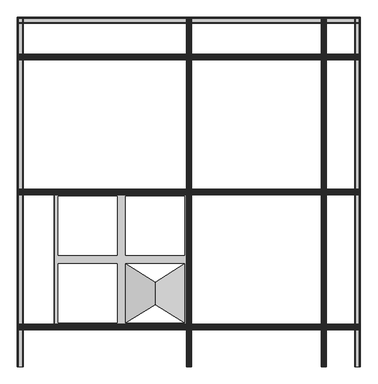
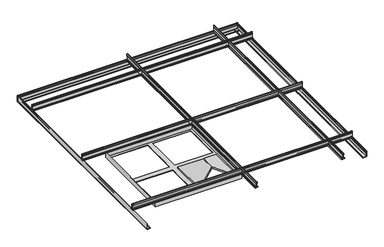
"""IFC4 building model written with IfcOpenShell, lengths in millimetres: proxy geometry, Maxxit_Piramid-Ceiling_rev-01 : Maxxit_Piramid-Ceiling_Quad."""

from ifc_helpers import new_model, si_unit, point, frame, frame_2d, origin, place, context, project, spatial, polyline, circle_curve, trimmed, segment, composite_curve, outline, extrude, faceted_brep, source, transform, mapped, element, save


def generic_models_585501e3(model_context):
    return source(origin(), model_context, "Body", "SolidModel", [
        faceted_brep([(754.85625, 462.6473555, -1.5875), (754.85625, 195.9473555, -1.5875), (754.85625, 195.9473555, -11.1125), (754.85625, 462.6473555, -11.1125), (488.15625, 462.6473555, -11.1125), (488.15625, 195.9473555, -11.1125), (488.15625, 195.9473555, -1.5875), (488.15625, 462.6473555, -1.5875), (623.0937779, 380.097373, 62.70625), (623.0937779, 278.497338, 62.70625), (623.0937779, 278.497338, 53.18125), (619.9187221, 278.497338, 53.18125), (619.9187221, 278.497338, 62.70625), (619.9187221, 380.097373, 62.70625), (619.9187221, 380.097373, 53.18125), (623.0937779, 380.097373, 53.18125)], [[[0, 1, 2, 3]], [[4, 5, 6, 7]], [[1, 0, 8, 9]], [[9, 10, 2, 1]], [[11, 12, 6, 5]], [[13, 14, 4, 7]], [[15, 8, 0, 3]], [[10, 9, 12, 11]], [[8, 15, 14, 13]], [[3, 2, 10, 15]], [[15, 10, 11, 14]], [[5, 4, 14, 11]], [[7, 6, 12, 13]], [[9, 8, 13, 12]]]),
        faceted_brep([(165.1, 177.8, 25.4), (773.1125, 177.8, 25.4), (773.1125, 785.8125, 25.4), (165.1, 785.8125, 25.4), (771.525, 179.3875, 25.4), (166.6875, 179.3875, 25.4), (166.6875, 784.225, 25.4), (771.525, 784.225, 25.4), (165.1, 177.8, -12.7), (165.1, 785.8125, -12.7), (773.1125, 785.8125, -12.7), (773.1125, 177.8, -12.7), (754.85625, 195.9473555, -12.7), (754.85625, 462.6473555, -12.7), (488.15625, 462.6473555, -12.7), (488.15625, 195.9473555, -12.7), (183.35625, 195.9473555, -12.7), (450.05625, 195.9473555, -12.7), (450.05625, 278.497338, -12.7), (450.05625, 380.097373, -12.7), (450.05625, 462.6473555, -12.7), (183.35625, 462.6473555, -12.7), (183.35625, 380.0973555, -12.7), (183.35625, 278.4973555, -12.7), (754.85625, 767.6651445, -12.7), (488.15625, 767.6651445, -12.7), (488.15625, 685.115162, -12.7), (488.15625, 583.515127, -12.7), (488.15625, 500.9651445, -12.7), (754.85625, 500.9651445, -12.7), (754.85625, 583.5151445, -12.7), (754.85625, 685.1151445, -12.7), (183.35625, 500.9651445, -12.7), (450.05625, 500.9651445, -12.7), (450.05625, 583.515127, -12.7), (450.05625, 685.115162, -12.7), (450.05625, 767.6651445, -12.7), (183.35625, 767.6651445, -12.7), (183.35625, 685.1151445, -12.7), (183.35625, 583.5151445, -12.7), (166.6875, 179.3875, -11.1125), (771.525, 179.3875, -11.1125), (771.525, 784.225, -11.1125), (166.6875, 784.225, -11.1125), (754.85625, 195.9473555, -11.1125), (488.15625, 195.9473555, -11.1125), (488.15625, 462.6473555, -11.1125), (754.85625, 462.6473555, -11.1125), (183.35625, 462.6473555, -11.1125), (450.05625, 462.6473555, -11.1125), (450.05625, 380.097373, -11.1125), (450.05625, 278.497338, -11.1125), (450.05625, 195.9473555, -11.1125), (183.35625, 195.9473555, -11.1125), (183.35625, 278.4973555, -11.1125), (183.35625, 380.0973555, -11.1125), (754.85625, 500.9651445, -11.1125), (488.15625, 500.9651445, -11.1125), (488.15625, 583.515127, -11.1125), (488.15625, 685.115162, -11.1125), (488.15625, 767.6651445, -11.1125), (754.85625, 767.6651445, -11.1125), (754.85625, 685.1151445, -11.1125), (754.85625, 583.5151445, -11.1125), (183.35625, 767.6651445, -11.1125), (450.05625, 767.6651445, -11.1125), (450.05625, 685.115162, -11.1125), (450.05625, 583.515127, -11.1125), (450.05625, 500.9651445, -11.1125), (183.35625, 500.9651445, -11.1125), (183.35625, 583.5151445, -11.1125), (183.35625, 685.1151445, -11.1125)], [[[0, 1, 2, 3], [4, 5, 6, 7]], [[8, 9, 10, 11], [12, 13, 14, 15], [16, 17, 18, 19, 20, 21, 22, 23], [24, 25, 26, 27, 28, 29, 30, 31], [32, 33, 34, 35, 36, 37, 38, 39]], [[1, 0, 8, 11]], [[2, 1, 11, 10]], [[3, 2, 10, 9]], [[0, 3, 9, 8]], [[40, 41, 42, 43], [44, 45, 46, 47], [48, 49, 50, 51, 52, 53, 54, 55], [56, 57, 58, 59, 60, 61, 62, 63], [64, 65, 66, 67, 68, 69, 70, 71]], [[41, 40, 5, 4]], [[42, 41, 4, 7]], [[43, 42, 7, 6]], [[40, 43, 6, 5]], [[12, 15, 45, 44]], [[15, 14, 46, 45]], [[14, 13, 47, 46]], [[13, 12, 44, 47]], [[53, 16, 23, 22, 21, 48, 55, 54]], [[21, 20, 49, 48]], [[49, 20, 19, 18, 17, 52, 51, 50]], [[17, 16, 53, 52]], [[61, 24, 31, 30, 29, 56, 63, 62]], [[29, 28, 57, 56]], [[57, 28, 27, 26, 25, 60, 59, 58]], [[25, 24, 61, 60]], [[37, 36, 65, 64]], [[65, 36, 35, 34, 33, 68, 67, 66]], [[33, 32, 69, 68]], [[37, 64, 71, 70, 69, 32, 39, 38]]]),
        extrude(outline(composite_curve([segment(polyline([(26.3453115, 1384.6521622), (26.0364605, 1393.0221882), (27.0486923, 1393.0221882), (27.0486923, 1385.2587813)]), True, "CONTINUOUS"), segment(trimmed(circle_curve(frame_2d((28.0053766, 1385.2587813)), 0.9566843), [point((27.0486923, 1385.2587813))], [point((28.0053766, 1384.302097))], True, "CARTESIAN"), True, "CONTINUOUS"), segment(polyline([(28.0053766, 1384.302097), (53.7729211, 1384.302097)]), True, "CONTINUOUS"), segment(trimmed(circle_curve(frame_2d((53.6130577, 1385.0289444)), 0.74422), [point((53.7729211, 1384.302097))], [point((54.356, 1384.9853536))], True, "CARTESIAN"), True, "CONTINUOUS"), segment(trimmed(circle_curve(frame_2d((58.371716, 1385.2444703)), 4.0240672), [point((54.356, 1384.9853536))], [point((54.4068054, 1385.9319295))], False, "CARTESIAN"), True, "CONTINUOUS"), segment(trimmed(circle_curve(frame_2d((55.7865501, 1385.574174)), 1.4253717), [point((54.4068054, 1385.9319295))], [point((55.7865501, 1386.9995457))], False, "CARTESIAN"), True, "CONTINUOUS"), segment(polyline([(55.7865501, 1386.9995457), (64.7585942, 1386.9995457)]), True, "CONTINUOUS"), segment(trimmed(circle_curve(frame_2d((64.8150812, 1384.9494608)), 2.0508629), [point((64.7585942, 1386.9995457))], [point((66.2652603, 1386.3996399))], False, "CARTESIAN"), True, "CONTINUOUS"), segment(polyline([(66.2652603, 1386.3996399), (68.1708325, 1384.4940677)]), True, "CONTINUOUS"), segment(trimmed(circle_curve(frame_2d((67.1830148, 1383.50625)), 1.3969852), [point((68.1708325, 1384.4940677))], [point((68.1708325, 1382.5184323))], False, "CARTESIAN"), True, "CONTINUOUS"), segment(polyline([(68.1708325, 1382.5184323), (66.2652603, 1380.6128601)]), True, "CONTINUOUS"), segment(trimmed(circle_curve(frame_2d((64.8150812, 1382.0630392)), 2.0508629), [point((66.2652603, 1380.6128601))], [point((64.7585942, 1380.0129543))], False, "CARTESIAN"), True, "CONTINUOUS"), segment(polyline([(64.7585942, 1380.0129543), (55.7865501, 1380.0129543)]), True, "CONTINUOUS"), segment(trimmed(circle_curve(frame_2d((55.7865501, 1381.438326)), 1.4253717), [point((55.7865501, 1380.0129543))], [point((54.4068054, 1381.0805705))], False, "CARTESIAN"), True, "CONTINUOUS"), segment(trimmed(circle_curve(frame_2d((58.371716, 1381.7680297)), 4.0240672), [point((54.4068054, 1381.0805705))], [point((54.356, 1382.0271464))], False, "CARTESIAN"), True, "CONTINUOUS"), segment(trimmed(circle_curve(frame_2d((53.6130577, 1381.9835556)), 0.74422), [point((54.356, 1382.0271464))], [point((53.7436541, 1382.7162274))], True, "CARTESIAN"), True, "CONTINUOUS"), segment(polyline([(53.7436541, 1382.7162274), (28.0053766, 1382.7162274)]), True, "CONTINUOUS"), segment(trimmed(circle_curve(frame_2d((28.0053766, 1381.7595431)), 0.9566843), [point((28.0053766, 1382.7162274))], [point((27.0486923, 1381.7595431))], True, "CARTESIAN"), True, "CONTINUOUS"), segment(polyline([(27.0486923, 1381.7595431), (27.0486923, 1373.1632271), (26.0290179, 1373.1632271), (26.3453115, 1382.3661622)]), True, "CONTINUOUS"), segment(trimmed(circle_curve(frame_2d((27.4883115, 1382.3661622)), 1.143), [point((26.3453115, 1382.3661622))], [point((27.4883115, 1383.5091622))], False, "CARTESIAN"), True, "CONTINUOUS"), segment(trimmed(circle_curve(frame_2d((27.4883115, 1384.6521622)), 1.143), [point((27.4883115, 1383.5091622))], [point((26.3453115, 1384.6521622))], False, "CARTESIAN"), True, "CONTINUOUS")], self_intersect=False), holes=[composite_curve([segment(trimmed(circle_curve(frame_2d((54.058724, 1382.4366423)), 1.0922), [point((54.2797221, 1383.50625))], [point((55.150924, 1382.4366423))], False, "CARTESIAN"), True, "CONTINUOUS"), segment(polyline([(55.150924, 1382.4366423), (55.150924, 1381.4462215)]), True, "CONTINUOUS"), segment(trimmed(circle_curve(frame_2d((55.7859245, 1381.4462215)), 0.6350005), [point((55.150924, 1381.4462215))], [point((55.7859245, 1380.811221))], True, "CARTESIAN"), True, "CONTINUOUS"), segment(polyline([(55.7859245, 1380.811221), (64.7585942, 1380.811221)]), True, "CONTINUOUS"), segment(trimmed(circle_curve(frame_2d((64.7240599, 1382.3140641)), 1.5032399), [point((64.7585942, 1380.811221))], [point((65.7039943, 1381.1741261))], True, "CARTESIAN"), True, "CONTINUOUS"), segment(polyline([(65.7039943, 1381.1741261), (67.6095665, 1383.0796983)]), True, "CONTINUOUS"), segment(trimmed(circle_curve(frame_2d((67.1830148, 1383.50625)), 0.6032352), [point((67.6095665, 1383.0796983))], [point((67.6095665, 1383.9328017))], True, "CARTESIAN"), True, "CONTINUOUS"), segment(polyline([(67.6095665, 1383.9328017), (65.7039943, 1385.8383739)]), True, "CONTINUOUS"), segment(trimmed(circle_curve(frame_2d((64.7240599, 1384.6984359)), 1.5032399), [point((65.7039943, 1385.8383739))], [point((64.7585942, 1386.201279))], True, "CARTESIAN"), True, "CONTINUOUS"), segment(polyline([(64.7585942, 1386.201279), (55.7859245, 1386.201279)]), True, "CONTINUOUS"), segment(trimmed(circle_curve(frame_2d((55.7859245, 1385.5662785)), 0.6350005), [point((55.7859245, 1386.201279))], [point((55.150924, 1385.5662785))], True, "CARTESIAN"), True, "CONTINUOUS"), segment(polyline([(55.150924, 1385.5662785), (55.150924, 1384.5758577)]), True, "CONTINUOUS"), segment(trimmed(circle_curve(frame_2d((54.058724, 1384.5758577)), 1.0922), [point((55.150924, 1384.5758577))], [point((54.2797221, 1383.50625))], False, "CARTESIAN"), True, "CONTINUOUS")], self_intersect=False)]), frame((0.0, -0.79375, 0.0), z_axis=(0.0, 1.0, 0.0), x_axis=(0.0, 0.0, 1.0)), (0.0, 0.0, 1.0), 1574.8),
        extrude(outline(composite_curve([segment(trimmed(circle_curve(frame_2d((26.8823557, 1393.9419885)), 1.4823557), [point((25.4, 1393.9419885))], [point((28.3175237, 1393.5709475))], False, "CARTESIAN"), True, "CONTINUOUS"), segment(polyline([(28.3175237, 1393.5709475), (27.887022, 1392.0447705), (27.123083, 1392.2602613), (27.550773, 1393.7764703)]), True, "CONTINUOUS"), segment(trimmed(circle_curve(frame_2d((26.8823557, 1393.9419885)), 0.6886057), [point((27.550773, 1393.7764703))], [point((26.19375, 1393.9419885))], True, "CARTESIAN"), True, "CONTINUOUS"), segment(polyline([(26.19375, 1393.9419885), (26.19375, 1373.0705115)]), True, "CONTINUOUS"), segment(trimmed(circle_curve(frame_2d((26.8823557, 1373.0705115)), 0.6886057), [point((26.19375, 1373.0705115))], [point((27.550773, 1373.2360297))], True, "CARTESIAN"), True, "CONTINUOUS"), segment(polyline([(27.550773, 1373.2360297), (27.123083, 1374.7522387), (27.887022, 1374.9677295), (28.3175237, 1373.4415525)]), True, "CONTINUOUS"), segment(trimmed(circle_curve(frame_2d((26.8823557, 1373.0705115)), 1.4823557), [point((28.3175237, 1373.4415525))], [point((25.4, 1373.0705115))], False, "CARTESIAN"), True, "CONTINUOUS"), segment(polyline([(25.4, 1373.0705115), (25.4, 1393.9419885)]), True, "CONTINUOUS")], self_intersect=False)), frame((0.0, -0.79375, 0.0), z_axis=(0.0, 1.0, 0.0), x_axis=(0.0, 0.0, 1.0)), (0.0, 0.0, 1.0), 1574.8),
        extrude(outline(composite_curve([segment(trimmed(circle_curve(frame_2d((1397.3521622, 27.4883115)), 1.143), [point((1397.3521622, 26.3453115))], [point((1396.2091622, 27.4883115))], False, "CARTESIAN"), True, "CONTINUOUS"), segment(trimmed(circle_curve(frame_2d((1395.0661622, 27.4883115)), 1.143), [point((1396.2091622, 27.4883115))], [point((1395.0661622, 26.3453115))], False, "CARTESIAN"), True, "CONTINUOUS"), segment(polyline([(1395.0661622, 26.3453115), (1385.8632271, 26.0290179), (1385.8632271, 27.0486923), (1394.4595431, 27.0486923)]), True, "CONTINUOUS"), segment(trimmed(circle_curve(frame_2d((1394.4595431, 28.0053766)), 0.9566843), [point((1394.4595431, 27.0486923))], [point((1395.4162274, 28.0053766))], True, "CARTESIAN"), True, "CONTINUOUS"), segment(polyline([(1395.4162274, 28.0053766), (1395.4162274, 53.7436541)]), True, "CONTINUOUS"), segment(trimmed(circle_curve(frame_2d((1394.6835556, 53.6130577)), 0.74422), [point((1395.4162274, 53.7436541))], [point((1394.7271464, 54.356))], True, "CARTESIAN"), True, "CONTINUOUS"), segment(trimmed(circle_curve(frame_2d((1394.4680297, 58.371716)), 4.0240672), [point((1394.7271464, 54.356))], [point((1393.7805705, 54.4068054))], False, "CARTESIAN"), True, "CONTINUOUS"), segment(trimmed(circle_curve(frame_2d((1394.138326, 55.7865501)), 1.4253717), [point((1393.7805705, 54.4068054))], [point((1392.7129543, 55.7865501))], False, "CARTESIAN"), True, "CONTINUOUS"), segment(polyline([(1392.7129543, 55.7865501), (1392.7129543, 64.7585942)]), True, "CONTINUOUS"), segment(trimmed(circle_curve(frame_2d((1394.7630392, 64.8150812)), 2.0508629), [point((1392.7129543, 64.7585942))], [point((1393.3128601, 66.2652603))], False, "CARTESIAN"), True, "CONTINUOUS"), segment(polyline([(1393.3128601, 66.2652603), (1395.2184323, 68.1708325)]), True, "CONTINUOUS"), segment(trimmed(circle_curve(frame_2d((1396.20625, 67.1830148)), 1.3969852), [point((1395.2184323, 68.1708325))], [point((1397.1940677, 68.1708325))], False, "CARTESIAN"), True, "CONTINUOUS"), segment(polyline([(1397.1940677, 68.1708325), (1399.0996399, 66.2652603)]), True, "CONTINUOUS"), segment(trimmed(circle_curve(frame_2d((1397.6494608, 64.8150812)), 2.0508629), [point((1399.0996399, 66.2652603))], [point((1399.6995457, 64.7585942))], False, "CARTESIAN"), True, "CONTINUOUS"), segment(polyline([(1399.6995457, 64.7585942), (1399.6995457, 55.7865501)]), True, "CONTINUOUS"), segment(trimmed(circle_curve(frame_2d((1398.274174, 55.7865501)), 1.4253717), [point((1399.6995457, 55.7865501))], [point((1398.6319295, 54.4068054))], False, "CARTESIAN"), True, "CONTINUOUS"), segment(trimmed(circle_curve(frame_2d((1397.9444703, 58.371716)), 4.0240672), [point((1398.6319295, 54.4068054))], [point((1397.6853536, 54.356))], False, "CARTESIAN"), True, "CONTINUOUS"), segment(trimmed(circle_curve(frame_2d((1397.7289444, 53.6130577)), 0.74422), [point((1397.6853536, 54.356))], [point((1397.002097, 53.7729211))], True, "CARTESIAN"), True, "CONTINUOUS"), segment(polyline([(1397.002097, 53.7729211), (1397.002097, 28.0053766)]), True, "CONTINUOUS"), segment(trimmed(circle_curve(frame_2d((1397.9587813, 28.0053766)), 0.9566843), [point((1397.002097, 28.0053766))], [point((1397.9587813, 27.0486923))], True, "CARTESIAN"), True, "CONTINUOUS"), segment(polyline([(1397.9587813, 27.0486923), (1405.7221882, 27.0486923), (1405.7221882, 26.0364605), (1397.3521622, 26.3453115)]), True, "CONTINUOUS")], self_intersect=False), holes=[composite_curve([segment(trimmed(circle_curve(frame_2d((1397.2758577, 54.058724)), 1.0922), [point((1396.20625, 54.2797221))], [point((1397.2758577, 55.150924))], False, "CARTESIAN"), True, "CONTINUOUS"), segment(polyline([(1397.2758577, 55.150924), (1398.2662785, 55.150924)]), True, "CONTINUOUS"), segment(trimmed(circle_curve(frame_2d((1398.2662785, 55.7859245)), 0.6350005), [point((1398.2662785, 55.150924))], [point((1398.901279, 55.7859245))], True, "CARTESIAN"), True, "CONTINUOUS"), segment(polyline([(1398.901279, 55.7859245), (1398.901279, 64.7585942)]), True, "CONTINUOUS"), segment(trimmed(circle_curve(frame_2d((1397.3984359, 64.7240599)), 1.5032399), [point((1398.901279, 64.7585942))], [point((1398.5383739, 65.7039943))], True, "CARTESIAN"), True, "CONTINUOUS"), segment(polyline([(1398.5383739, 65.7039943), (1396.6328017, 67.6095665)]), True, "CONTINUOUS"), segment(trimmed(circle_curve(frame_2d((1396.20625, 67.1830148)), 0.6032352), [point((1396.6328017, 67.6095665))], [point((1395.7796983, 67.6095665))], True, "CARTESIAN"), True, "CONTINUOUS"), segment(polyline([(1395.7796983, 67.6095665), (1393.8741261, 65.7039943)]), True, "CONTINUOUS"), segment(trimmed(circle_curve(frame_2d((1395.0140641, 64.7240599)), 1.5032399), [point((1393.8741261, 65.7039943))], [point((1393.511221, 64.7585942))], True, "CARTESIAN"), True, "CONTINUOUS"), segment(polyline([(1393.511221, 64.7585942), (1393.511221, 55.7859245)]), True, "CONTINUOUS"), segment(trimmed(circle_curve(frame_2d((1394.1462215, 55.7859245)), 0.6350005), [point((1393.511221, 55.7859245))], [point((1394.1462215, 55.150924))], True, "CARTESIAN"), True, "CONTINUOUS"), segment(polyline([(1394.1462215, 55.150924), (1395.1366423, 55.150924)]), True, "CONTINUOUS"), segment(trimmed(circle_curve(frame_2d((1395.1366423, 54.058724)), 1.0922), [point((1395.1366423, 55.150924))], [point((1396.20625, 54.2797221))], False, "CARTESIAN"), True, "CONTINUOUS")], self_intersect=False)]), frame((-0.79375, 0.0, 0.0), z_axis=(1.0, 0.0, 0.0), x_axis=(0.0, 1.0, 0.0)), (0.0, 0.0, 1.0), 1549.4),
        extrude(outline(composite_curve([segment(polyline([(1406.6419885, 25.4), (1385.7705115, 25.4)]), True, "CONTINUOUS"), segment(trimmed(circle_curve(frame_2d((1385.7705115, 26.8823557)), 1.4823557), [point((1385.7705115, 25.4))], [point((1386.1415525, 28.3175237))], False, "CARTESIAN"), True, "CONTINUOUS"), segment(polyline([(1386.1415525, 28.3175237), (1387.6677295, 27.887022), (1387.4522387, 27.123083), (1385.9360297, 27.550773)]), True, "CONTINUOUS"), segment(trimmed(circle_curve(frame_2d((1385.7705115, 26.8823557)), 0.6886057), [point((1385.9360297, 27.550773))], [point((1385.7705115, 26.19375))], True, "CARTESIAN"), True, "CONTINUOUS"), segment(polyline([(1385.7705115, 26.19375), (1406.6419885, 26.19375)]), True, "CONTINUOUS"), segment(trimmed(circle_curve(frame_2d((1406.6419885, 26.8823557)), 0.6886057), [point((1406.6419885, 26.19375))], [point((1406.4764703, 27.550773))], True, "CARTESIAN"), True, "CONTINUOUS"), segment(polyline([(1406.4764703, 27.550773), (1404.9602613, 27.123083), (1404.7447705, 27.887022), (1406.2709475, 28.3175237)]), True, "CONTINUOUS"), segment(trimmed(circle_curve(frame_2d((1406.6419885, 26.8823557)), 1.4823557), [point((1406.2709475, 28.3175237))], [point((1406.6419885, 25.4))], False, "CARTESIAN"), True, "CONTINUOUS")], self_intersect=False)), frame((-0.79375, 0.0, 0.0), z_axis=(1.0, 0.0, 0.0), x_axis=(0.0, 1.0, 0.0)), (0.0, 0.0, 1.0), 1549.4),
        extrude(outline(composite_curve([segment(polyline([(26.3453115, 775.0521622), (26.0364605, 783.4221882), (27.0486923, 783.4221882), (27.0486923, 775.6587813)]), True, "CONTINUOUS"), segment(trimmed(circle_curve(frame_2d((28.0053766, 775.6587813)), 0.9566843), [point((27.0486923, 775.6587813))], [point((28.0053766, 774.702097))], True, "CARTESIAN"), True, "CONTINUOUS"), segment(polyline([(28.0053766, 774.702097), (53.7729211, 774.702097)]), True, "CONTINUOUS"), segment(trimmed(circle_curve(frame_2d((53.6130577, 775.4289444)), 0.74422), [point((53.7729211, 774.702097))], [point((54.356, 775.3853536))], True, "CARTESIAN"), True, "CONTINUOUS"), segment(trimmed(circle_curve(frame_2d((58.371716, 775.6444703)), 4.0240672), [point((54.356, 775.3853536))], [point((54.4068054, 776.3319295))], False, "CARTESIAN"), True, "CONTINUOUS"), segment(trimmed(circle_curve(frame_2d((55.7865501, 775.974174)), 1.4253717), [point((54.4068054, 776.3319295))], [point((55.7865501, 777.3995457))], False, "CARTESIAN"), True, "CONTINUOUS"), segment(polyline([(55.7865501, 777.3995457), (64.7585942, 777.3995457)]), True, "CONTINUOUS"), segment(trimmed(circle_curve(frame_2d((64.8150812, 775.3494608)), 2.0508629), [point((64.7585942, 777.3995457))], [point((66.2652603, 776.7996399))], False, "CARTESIAN"), True, "CONTINUOUS"), segment(polyline([(66.2652603, 776.7996399), (68.1708325, 774.8940677)]), True, "CONTINUOUS"), segment(trimmed(circle_curve(frame_2d((67.1830148, 773.90625)), 1.3969852), [point((68.1708325, 774.8940677))], [point((68.1708325, 772.9184323))], False, "CARTESIAN"), True, "CONTINUOUS"), segment(polyline([(68.1708325, 772.9184323), (66.2652603, 771.0128601)]), True, "CONTINUOUS"), segment(trimmed(circle_curve(frame_2d((64.8150812, 772.4630392)), 2.0508629), [point((66.2652603, 771.0128601))], [point((64.7585942, 770.4129543))], False, "CARTESIAN"), True, "CONTINUOUS"), segment(polyline([(64.7585942, 770.4129543), (55.7865501, 770.4129543)]), True, "CONTINUOUS"), segment(trimmed(circle_curve(frame_2d((55.7865501, 771.838326)), 1.4253717), [point((55.7865501, 770.4129543))], [point((54.4068054, 771.4805705))], False, "CARTESIAN"), True, "CONTINUOUS"), segment(trimmed(circle_curve(frame_2d((58.371716, 772.1680297)), 4.0240672), [point((54.4068054, 771.4805705))], [point((54.356, 772.4271464))], False, "CARTESIAN"), True, "CONTINUOUS"), segment(trimmed(circle_curve(frame_2d((53.6130577, 772.3835556)), 0.74422), [point((54.356, 772.4271464))], [point((53.7436541, 773.1162274))], True, "CARTESIAN"), True, "CONTINUOUS"), segment(polyline([(53.7436541, 773.1162274), (28.0053766, 773.1162274)]), True, "CONTINUOUS"), segment(trimmed(circle_curve(frame_2d((28.0053766, 772.1595431)), 0.9566843), [point((28.0053766, 773.1162274))], [point((27.0486923, 772.1595431))], True, "CARTESIAN"), True, "CONTINUOUS"), segment(polyline([(27.0486923, 772.1595431), (27.0486923, 763.5632271), (26.0290179, 763.5632271), (26.3453115, 772.7661622)]), True, "CONTINUOUS"), segment(trimmed(circle_curve(frame_2d((27.4883115, 772.7661622)), 1.143), [point((26.3453115, 772.7661622))], [point((27.4883115, 773.9091622))], False, "CARTESIAN"), True, "CONTINUOUS"), segment(trimmed(circle_curve(frame_2d((27.4883115, 775.0521622)), 1.143), [point((27.4883115, 773.9091622))], [point((26.3453115, 775.0521622))], False, "CARTESIAN"), True, "CONTINUOUS")], self_intersect=False), holes=[composite_curve([segment(trimmed(circle_curve(frame_2d((54.058724, 772.8366423)), 1.0922), [point((54.2797221, 773.90625))], [point((55.150924, 772.8366423))], False, "CARTESIAN"), True, "CONTINUOUS"), segment(polyline([(55.150924, 772.8366423), (55.150924, 771.8462215)]), True, "CONTINUOUS"), segment(trimmed(circle_curve(frame_2d((55.7859245, 771.8462215)), 0.6350005), [point((55.150924, 771.8462215))], [point((55.7859245, 771.211221))], True, "CARTESIAN"), True, "CONTINUOUS"), segment(polyline([(55.7859245, 771.211221), (64.7585942, 771.211221)]), True, "CONTINUOUS"), segment(trimmed(circle_curve(frame_2d((64.7240599, 772.7140641)), 1.5032399), [point((64.7585942, 771.211221))], [point((65.7039943, 771.5741261))], True, "CARTESIAN"), True, "CONTINUOUS"), segment(polyline([(65.7039943, 771.5741261), (67.6095665, 773.4796983)]), True, "CONTINUOUS"), segment(trimmed(circle_curve(frame_2d((67.1830148, 773.90625)), 0.6032352), [point((67.6095665, 773.4796983))], [point((67.6095665, 774.3328017))], True, "CARTESIAN"), True, "CONTINUOUS"), segment(polyline([(67.6095665, 774.3328017), (65.7039943, 776.2383739)]), True, "CONTINUOUS"), segment(trimmed(circle_curve(frame_2d((64.7240599, 775.0984359)), 1.5032399), [point((65.7039943, 776.2383739))], [point((64.7585942, 776.601279))], True, "CARTESIAN"), True, "CONTINUOUS"), segment(polyline([(64.7585942, 776.601279), (55.7859245, 776.601279)]), True, "CONTINUOUS"), segment(trimmed(circle_curve(frame_2d((55.7859245, 775.9662785)), 0.6350005), [point((55.7859245, 776.601279))], [point((55.150924, 775.9662785))], True, "CARTESIAN"), True, "CONTINUOUS"), segment(polyline([(55.150924, 775.9662785), (55.150924, 774.9758577)]), True, "CONTINUOUS"), segment(trimmed(circle_curve(frame_2d((54.058724, 774.9758577)), 1.0922), [point((55.150924, 774.9758577))], [point((54.2797221, 773.90625))], False, "CARTESIAN"), True, "CONTINUOUS")], self_intersect=False)]), frame((0.0, -0.79375, 0.0), z_axis=(0.0, 1.0, 0.0), x_axis=(0.0, 0.0, 1.0)), (0.0, 0.0, 1.0), 1574.8),
        extrude(outline(composite_curve([segment(trimmed(circle_curve(frame_2d((26.8823557, 784.3419885)), 1.4823557), [point((25.4, 784.3419885))], [point((28.3175237, 783.9709475))], False, "CARTESIAN"), True, "CONTINUOUS"), segment(polyline([(28.3175237, 783.9709475), (27.887022, 782.4447705), (27.123083, 782.6602613), (27.550773, 784.1764703)]), True, "CONTINUOUS"), segment(trimmed(circle_curve(frame_2d((26.8823557, 784.3419885)), 0.6886057), [point((27.550773, 784.1764703))], [point((26.19375, 784.3419885))], True, "CARTESIAN"), True, "CONTINUOUS"), segment(polyline([(26.19375, 784.3419885), (26.19375, 763.4705115)]), True, "CONTINUOUS"), segment(trimmed(circle_curve(frame_2d((26.8823557, 763.4705115)), 0.6886057), [point((26.19375, 763.4705115))], [point((27.550773, 763.6360297))], True, "CARTESIAN"), True, "CONTINUOUS"), segment(polyline([(27.550773, 763.6360297), (27.123083, 765.1522387), (27.887022, 765.3677295), (28.3175237, 763.8415525)]), True, "CONTINUOUS"), segment(trimmed(circle_curve(frame_2d((26.8823557, 763.4705115)), 1.4823557), [point((28.3175237, 763.8415525))], [point((25.4, 763.4705115))], False, "CARTESIAN"), True, "CONTINUOUS"), segment(polyline([(25.4, 763.4705115), (25.4, 784.3419885)]), True, "CONTINUOUS")], self_intersect=False)), frame((0.0, -0.79375, 0.0), z_axis=(0.0, 1.0, 0.0), x_axis=(0.0, 0.0, 1.0)), (0.0, 0.0, 1.0), 1574.8),
        extrude(outline(composite_curve([segment(trimmed(circle_curve(frame_2d((787.7521622, 27.4883115)), 1.143), [point((787.7521622, 26.3453115))], [point((786.6091622, 27.4883115))], False, "CARTESIAN"), True, "CONTINUOUS"), segment(trimmed(circle_curve(frame_2d((785.4661622, 27.4883115)), 1.143), [point((786.6091622, 27.4883115))], [point((785.4661622, 26.3453115))], False, "CARTESIAN"), True, "CONTINUOUS"), segment(polyline([(785.4661622, 26.3453115), (776.2632271, 26.0290179), (776.2632271, 27.0486923), (784.8595431, 27.0486923)]), True, "CONTINUOUS"), segment(trimmed(circle_curve(frame_2d((784.8595431, 28.0053766)), 0.9566843), [point((784.8595431, 27.0486923))], [point((785.8162274, 28.0053766))], True, "CARTESIAN"), True, "CONTINUOUS"), segment(polyline([(785.8162274, 28.0053766), (785.8162274, 53.7436541)]), True, "CONTINUOUS"), segment(trimmed(circle_curve(frame_2d((785.0835556, 53.6130577)), 0.74422), [point((785.8162274, 53.7436541))], [point((785.1271464, 54.356))], True, "CARTESIAN"), True, "CONTINUOUS"), segment(trimmed(circle_curve(frame_2d((784.8680297, 58.371716)), 4.0240672), [point((785.1271464, 54.356))], [point((784.1805705, 54.4068054))], False, "CARTESIAN"), True, "CONTINUOUS"), segment(trimmed(circle_curve(frame_2d((784.538326, 55.7865501)), 1.4253717), [point((784.1805705, 54.4068054))], [point((783.1129543, 55.7865501))], False, "CARTESIAN"), True, "CONTINUOUS"), segment(polyline([(783.1129543, 55.7865501), (783.1129543, 64.7585942)]), True, "CONTINUOUS"), segment(trimmed(circle_curve(frame_2d((785.1630392, 64.8150812)), 2.0508629), [point((783.1129543, 64.7585942))], [point((783.7128601, 66.2652603))], False, "CARTESIAN"), True, "CONTINUOUS"), segment(polyline([(783.7128601, 66.2652603), (785.6184323, 68.1708325)]), True, "CONTINUOUS"), segment(trimmed(circle_curve(frame_2d((786.60625, 67.1830148)), 1.3969852), [point((785.6184323, 68.1708325))], [point((787.5940677, 68.1708325))], False, "CARTESIAN"), True, "CONTINUOUS"), segment(polyline([(787.5940677, 68.1708325), (789.4996399, 66.2652603)]), True, "CONTINUOUS"), segment(trimmed(circle_curve(frame_2d((788.0494608, 64.8150812)), 2.0508629), [point((789.4996399, 66.2652603))], [point((790.0995457, 64.7585942))], False, "CARTESIAN"), True, "CONTINUOUS"), segment(polyline([(790.0995457, 64.7585942), (790.0995457, 55.7865501)]), True, "CONTINUOUS"), segment(trimmed(circle_curve(frame_2d((788.674174, 55.7865501)), 1.4253717), [point((790.0995457, 55.7865501))], [point((789.0319295, 54.4068054))], False, "CARTESIAN"), True, "CONTINUOUS"), segment(trimmed(circle_curve(frame_2d((788.3444703, 58.371716)), 4.0240672), [point((789.0319295, 54.4068054))], [point((788.0853536, 54.356))], False, "CARTESIAN"), True, "CONTINUOUS"), segment(trimmed(circle_curve(frame_2d((788.1289444, 53.6130577)), 0.74422), [point((788.0853536, 54.356))], [point((787.402097, 53.7729211))], True, "CARTESIAN"), True, "CONTINUOUS"), segment(polyline([(787.402097, 53.7729211), (787.402097, 28.0053766)]), True, "CONTINUOUS"), segment(trimmed(circle_curve(frame_2d((788.3587813, 28.0053766)), 0.9566843), [point((787.402097, 28.0053766))], [point((788.3587813, 27.0486923))], True, "CARTESIAN"), True, "CONTINUOUS"), segment(polyline([(788.3587813, 27.0486923), (796.1221882, 27.0486923), (796.1221882, 26.0364605), (787.7521622, 26.3453115)]), True, "CONTINUOUS")], self_intersect=False), holes=[composite_curve([segment(trimmed(circle_curve(frame_2d((787.6758577, 54.058724)), 1.0922), [point((786.60625, 54.2797221))], [point((787.6758577, 55.150924))], False, "CARTESIAN"), True, "CONTINUOUS"), segment(polyline([(787.6758577, 55.150924), (788.6662785, 55.150924)]), True, "CONTINUOUS"), segment(trimmed(circle_curve(frame_2d((788.6662785, 55.7859245)), 0.6350005), [point((788.6662785, 55.150924))], [point((789.301279, 55.7859245))], True, "CARTESIAN"), True, "CONTINUOUS"), segment(polyline([(789.301279, 55.7859245), (789.301279, 64.7585942)]), True, "CONTINUOUS"), segment(trimmed(circle_curve(frame_2d((787.7984359, 64.7240599)), 1.5032399), [point((789.301279, 64.7585942))], [point((788.9383739, 65.7039943))], True, "CARTESIAN"), True, "CONTINUOUS"), segment(polyline([(788.9383739, 65.7039943), (787.0328017, 67.6095665)]), True, "CONTINUOUS"), segment(trimmed(circle_curve(frame_2d((786.60625, 67.1830148)), 0.6032352), [point((787.0328017, 67.6095665))], [point((786.1796983, 67.6095665))], True, "CARTESIAN"), True, "CONTINUOUS"), segment(polyline([(786.1796983, 67.6095665), (784.2741261, 65.7039943)]), True, "CONTINUOUS"), segment(trimmed(circle_curve(frame_2d((785.4140641, 64.7240599)), 1.5032399), [point((784.2741261, 65.7039943))], [point((783.911221, 64.7585942))], True, "CARTESIAN"), True, "CONTINUOUS"), segment(polyline([(783.911221, 64.7585942), (783.911221, 55.7859245)]), True, "CONTINUOUS"), segment(trimmed(circle_curve(frame_2d((784.5462215, 55.7859245)), 0.6350005), [point((783.911221, 55.7859245))], [point((784.5462215, 55.150924))], True, "CARTESIAN"), True, "CONTINUOUS"), segment(polyline([(784.5462215, 55.150924), (785.5366423, 55.150924)]), True, "CONTINUOUS"), segment(trimmed(circle_curve(frame_2d((785.5366423, 54.058724)), 1.0922), [point((785.5366423, 55.150924))], [point((786.60625, 54.2797221))], False, "CARTESIAN"), True, "CONTINUOUS")], self_intersect=False)]), frame((-0.79375, 0.0, 0.0), z_axis=(1.0, 0.0, 0.0), x_axis=(0.0, 1.0, 0.0)), (0.0, 0.0, 1.0), 1549.4),
        extrude(outline(composite_curve([segment(polyline([(797.0419885, 25.4), (776.1705115, 25.4)]), True, "CONTINUOUS"), segment(trimmed(circle_curve(frame_2d((776.1705115, 26.8823557)), 1.4823557), [point((776.1705115, 25.4))], [point((776.5415525, 28.3175237))], False, "CARTESIAN"), True, "CONTINUOUS"), segment(polyline([(776.5415525, 28.3175237), (778.0677295, 27.887022), (777.8522387, 27.123083), (776.3360297, 27.550773)]), True, "CONTINUOUS"), segment(trimmed(circle_curve(frame_2d((776.1705115, 26.8823557)), 0.6886057), [point((776.3360297, 27.550773))], [point((776.1705115, 26.19375))], True, "CARTESIAN"), True, "CONTINUOUS"), segment(polyline([(776.1705115, 26.19375), (797.0419885, 26.19375)]), True, "CONTINUOUS"), segment(trimmed(circle_curve(frame_2d((797.0419885, 26.8823557)), 0.6886057), [point((797.0419885, 26.19375))], [point((796.8764703, 27.550773))], True, "CARTESIAN"), True, "CONTINUOUS"), segment(polyline([(796.8764703, 27.550773), (795.3602613, 27.123083), (795.1447705, 27.887022), (796.6709475, 28.3175237)]), True, "CONTINUOUS"), segment(trimmed(circle_curve(frame_2d((797.0419885, 26.8823557)), 1.4823557), [point((796.6709475, 28.3175237))], [point((797.0419885, 25.4))], False, "CARTESIAN"), True, "CONTINUOUS")], self_intersect=False)), frame((-0.79375, 0.0, 0.0), z_axis=(1.0, 0.0, 0.0), x_axis=(0.0, 1.0, 0.0)), (0.0, 0.0, 1.0), 1549.4),
        extrude(outline(composite_curve([segment(trimmed(circle_curve(frame_2d((178.1521622, 27.4883115)), 1.143), [point((178.1521622, 26.3453115))], [point((177.0091622, 27.4883115))], False, "CARTESIAN"), True, "CONTINUOUS"), segment(trimmed(circle_curve(frame_2d((175.8661622, 27.4883115)), 1.143), [point((177.0091622, 27.4883115))], [point((175.8661622, 26.3453115))], False, "CARTESIAN"), True, "CONTINUOUS"), segment(polyline([(175.8661622, 26.3453115), (166.6632271, 26.0290179), (166.6632271, 27.0486923), (175.2595431, 27.0486923)]), True, "CONTINUOUS"), segment(trimmed(circle_curve(frame_2d((175.2595431, 28.0053766)), 0.9566843), [point((175.2595431, 27.0486923))], [point((176.2162274, 28.0053766))], True, "CARTESIAN"), True, "CONTINUOUS"), segment(polyline([(176.2162274, 28.0053766), (176.2162274, 53.7436541)]), True, "CONTINUOUS"), segment(trimmed(circle_curve(frame_2d((175.4835556, 53.6130577)), 0.74422), [point((176.2162274, 53.7436541))], [point((175.5271464, 54.356))], True, "CARTESIAN"), True, "CONTINUOUS"), segment(trimmed(circle_curve(frame_2d((175.2680297, 58.371716)), 4.0240672), [point((175.5271464, 54.356))], [point((174.5805705, 54.4068054))], False, "CARTESIAN"), True, "CONTINUOUS"), segment(trimmed(circle_curve(frame_2d((174.938326, 55.7865501)), 1.4253717), [point((174.5805705, 54.4068054))], [point((173.5129543, 55.7865501))], False, "CARTESIAN"), True, "CONTINUOUS"), segment(polyline([(173.5129543, 55.7865501), (173.5129543, 64.7585942)]), True, "CONTINUOUS"), segment(trimmed(circle_curve(frame_2d((175.5630392, 64.8150812)), 2.0508629), [point((173.5129543, 64.7585942))], [point((174.1128601, 66.2652603))], False, "CARTESIAN"), True, "CONTINUOUS"), segment(polyline([(174.1128601, 66.2652603), (176.0184323, 68.1708325)]), True, "CONTINUOUS"), segment(trimmed(circle_curve(frame_2d((177.00625, 67.1830148)), 1.3969852), [point((176.0184323, 68.1708325))], [point((177.9940677, 68.1708325))], False, "CARTESIAN"), True, "CONTINUOUS"), segment(polyline([(177.9940677, 68.1708325), (179.8996399, 66.2652603)]), True, "CONTINUOUS"), segment(trimmed(circle_curve(frame_2d((178.4494608, 64.8150812)), 2.0508629), [point((179.8996399, 66.2652603))], [point((180.4995457, 64.7585942))], False, "CARTESIAN"), True, "CONTINUOUS"), segment(polyline([(180.4995457, 64.7585942), (180.4995457, 55.7865501)]), True, "CONTINUOUS"), segment(trimmed(circle_curve(frame_2d((179.074174, 55.7865501)), 1.4253717), [point((180.4995457, 55.7865501))], [point((179.4319295, 54.4068054))], False, "CARTESIAN"), True, "CONTINUOUS"), segment(trimmed(circle_curve(frame_2d((178.7444703, 58.371716)), 4.0240672), [point((179.4319295, 54.4068054))], [point((178.4853536, 54.356))], False, "CARTESIAN"), True, "CONTINUOUS"), segment(trimmed(circle_curve(frame_2d((178.5289444, 53.6130577)), 0.74422), [point((178.4853536, 54.356))], [point((177.802097, 53.7729211))], True, "CARTESIAN"), True, "CONTINUOUS"), segment(polyline([(177.802097, 53.7729211), (177.802097, 28.0053766)]), True, "CONTINUOUS"), segment(trimmed(circle_curve(frame_2d((178.7587813, 28.0053766)), 0.9566843), [point((177.802097, 28.0053766))], [point((178.7587813, 27.0486923))], True, "CARTESIAN"), True, "CONTINUOUS"), segment(polyline([(178.7587813, 27.0486923), (186.5221882, 27.0486923), (186.5221882, 26.0364605), (178.1521622, 26.3453115)]), True, "CONTINUOUS")], self_intersect=False), holes=[composite_curve([segment(trimmed(circle_curve(frame_2d((178.0758577, 54.058724)), 1.0922), [point((177.00625, 54.2797221))], [point((178.0758577, 55.150924))], False, "CARTESIAN"), True, "CONTINUOUS"), segment(polyline([(178.0758577, 55.150924), (179.0662785, 55.150924)]), True, "CONTINUOUS"), segment(trimmed(circle_curve(frame_2d((179.0662785, 55.7859245)), 0.6350005), [point((179.0662785, 55.150924))], [point((179.701279, 55.7859245))], True, "CARTESIAN"), True, "CONTINUOUS"), segment(polyline([(179.701279, 55.7859245), (179.701279, 64.7585942)]), True, "CONTINUOUS"), segment(trimmed(circle_curve(frame_2d((178.1984359, 64.7240599)), 1.5032399), [point((179.701279, 64.7585942))], [point((179.3383739, 65.7039943))], True, "CARTESIAN"), True, "CONTINUOUS"), segment(polyline([(179.3383739, 65.7039943), (177.4328017, 67.6095665)]), True, "CONTINUOUS"), segment(trimmed(circle_curve(frame_2d((177.00625, 67.1830148)), 0.6032352), [point((177.4328017, 67.6095665))], [point((176.5796983, 67.6095665))], True, "CARTESIAN"), True, "CONTINUOUS"), segment(polyline([(176.5796983, 67.6095665), (174.6741261, 65.7039943)]), True, "CONTINUOUS"), segment(trimmed(circle_curve(frame_2d((175.8140641, 64.7240599)), 1.5032399), [point((174.6741261, 65.7039943))], [point((174.311221, 64.7585942))], True, "CARTESIAN"), True, "CONTINUOUS"), segment(polyline([(174.311221, 64.7585942), (174.311221, 55.7859245)]), True, "CONTINUOUS"), segment(trimmed(circle_curve(frame_2d((174.9462215, 55.7859245)), 0.6350005), [point((174.311221, 55.7859245))], [point((174.9462215, 55.150924))], True, "CARTESIAN"), True, "CONTINUOUS"), segment(polyline([(174.9462215, 55.150924), (175.9366423, 55.150924)]), True, "CONTINUOUS"), segment(trimmed(circle_curve(frame_2d((175.9366423, 54.058724)), 1.0922), [point((175.9366423, 55.150924))], [point((177.00625, 54.2797221))], False, "CARTESIAN"), True, "CONTINUOUS")], self_intersect=False)]), frame((-0.79375, 0.0, 0.0), z_axis=(1.0, 0.0, 0.0), x_axis=(0.0, 1.0, 0.0)), (0.0, 0.0, 1.0), 1549.4),
        extrude(outline(composite_curve([segment(polyline([(187.4419885, 25.4), (166.5705115, 25.4)]), True, "CONTINUOUS"), segment(trimmed(circle_curve(frame_2d((166.5705115, 26.8823557)), 1.4823557), [point((166.5705115, 25.4))], [point((166.9415525, 28.3175237))], False, "CARTESIAN"), True, "CONTINUOUS"), segment(polyline([(166.9415525, 28.3175237), (168.4677295, 27.887022), (168.2522387, 27.123083), (166.7360297, 27.550773)]), True, "CONTINUOUS"), segment(trimmed(circle_curve(frame_2d((166.5705115, 26.8823557)), 0.6886057), [point((166.7360297, 27.550773))], [point((166.5705115, 26.19375))], True, "CARTESIAN"), True, "CONTINUOUS"), segment(polyline([(166.5705115, 26.19375), (187.4419885, 26.19375)]), True, "CONTINUOUS"), segment(trimmed(circle_curve(frame_2d((187.4419885, 26.8823557)), 0.6886057), [point((187.4419885, 26.19375))], [point((187.2764703, 27.550773))], True, "CARTESIAN"), True, "CONTINUOUS"), segment(polyline([(187.2764703, 27.550773), (185.7602613, 27.123083), (185.5447705, 27.887022), (187.0709475, 28.3175237)]), True, "CONTINUOUS"), segment(trimmed(circle_curve(frame_2d((187.4419885, 26.8823557)), 1.4823557), [point((187.0709475, 28.3175237))], [point((187.4419885, 25.4))], False, "CARTESIAN"), True, "CONTINUOUS")], self_intersect=False)), frame((-0.79375, 0.0, 0.0), z_axis=(1.0, 0.0, 0.0), x_axis=(0.0, 1.0, 0.0)), (0.0, 0.0, 1.0), 1549.4),
        extrude(outline(composite_curve([segment(polyline([(-14.9820313, 1548.5762526), (-14.1882813, 1548.5762526), (-14.1882813, 1523.8809145)]), True, "CONTINUOUS"), segment(trimmed(circle_curve(frame_2d((-13.4996755, 1523.8809145)), 0.6886057), [point((-14.1882813, 1523.8809145))], [point((-12.8312583, 1524.0464327))], True, "CARTESIAN"), True, "CONTINUOUS"), segment(polyline([(-12.8312583, 1524.0464327), (-13.2589482, 1525.5626417), (-12.4950092, 1525.7781325), (-12.0645075, 1524.2519555)]), True, "CONTINUOUS"), segment(trimmed(circle_curve(frame_2d((-13.4996755, 1523.8809145)), 1.4823557), [point((-12.0645075, 1524.2519555))], [point((-14.9820313, 1523.8809145))], False, "CARTESIAN"), True, "CONTINUOUS"), segment(polyline([(-14.9820313, 1523.8809145), (-14.9820313, 1548.5762526)]), True, "CONTINUOUS")], self_intersect=False)), frame((0.0, -0.79375, 0.0), z_axis=(0.0, 1.0, 0.0), x_axis=(0.0, 0.0, 1.0)), (0.0, 0.0, 1.0), 1574.8),
        extrude(outline(composite_curve([segment(trimmed(circle_curve(frame_2d((26.9918874, 1547.810403)), 1.3969852), [point((28.1400142, 1548.60625))], [point((27.9797051, 1546.8225853))], False, "CARTESIAN"), True, "CONTINUOUS"), segment(polyline([(27.9797051, 1546.8225853), (26.0741329, 1544.9170131)]), True, "CONTINUOUS"), segment(trimmed(circle_curve(frame_2d((24.6239538, 1546.3671922)), 2.0508629), [point((26.0741329, 1544.9170131))], [point((24.5674668, 1544.3171073))], False, "CARTESIAN"), True, "CONTINUOUS"), segment(polyline([(24.5674668, 1544.3171073), (14.4241684, 1544.3171073)]), True, "CONTINUOUS"), segment(trimmed(circle_curve(frame_2d((14.4241684, 1545.742479)), 1.4253717), [point((14.4241684, 1544.3171073))], [point((13.0444237, 1545.3847235))], False, "CARTESIAN"), True, "CONTINUOUS"), segment(trimmed(circle_curve(frame_2d((17.0093343, 1546.0721827)), 4.0240672), [point((13.0444237, 1545.3847235))], [point((12.9936183, 1546.3312994))], False, "CARTESIAN"), True, "CONTINUOUS"), segment(trimmed(circle_curve(frame_2d((12.250676, 1546.2877086)), 0.74422), [point((12.9936183, 1546.3312994))], [point((12.3812724, 1547.0203804))], True, "CARTESIAN"), True, "CONTINUOUS"), segment(polyline([(12.3812724, 1547.0203804), (-12.3766547, 1547.0203804)]), True, "CONTINUOUS"), segment(trimmed(circle_curve(frame_2d((-12.3766547, 1546.0636961)), 0.9566843), [point((-12.3766547, 1547.0203804))], [point((-13.333339, 1546.0636961))], True, "CARTESIAN"), True, "CONTINUOUS"), segment(polyline([(-13.333339, 1546.0636961), (-13.333339, 1523.9736301), (-14.3530133, 1523.9736301), (-14.0306827, 1547.3459287)]), True, "CONTINUOUS"), segment(trimmed(circle_curve(frame_2d((-12.8937197, 1547.46325)), 1.143), [point((-14.0306827, 1547.3459287))], [point((-12.8937197, 1548.60625))], False, "CARTESIAN"), True, "CONTINUOUS"), segment(polyline([(-12.8937197, 1548.60625), (28.1400142, 1548.60625)]), True, "CONTINUOUS")], self_intersect=False), holes=[composite_curve([segment(trimmed(circle_curve(frame_2d((14.4235428, 1547.1729828)), 0.6350005), [point((14.4235428, 1547.8079833))], [point((13.7885423, 1547.1729828))], True, "CARTESIAN"), True, "CONTINUOUS"), segment(polyline([(13.7885423, 1547.1729828), (13.7885423, 1545.7503744)]), True, "CONTINUOUS"), segment(trimmed(circle_curve(frame_2d((14.4235428, 1545.7503744)), 0.6350005), [point((13.7885423, 1545.7503744))], [point((14.4235428, 1545.115374))], True, "CARTESIAN"), True, "CONTINUOUS"), segment(polyline([(14.4235428, 1545.115374), (24.5674668, 1545.115374)]), True, "CONTINUOUS"), segment(trimmed(circle_curve(frame_2d((24.5329325, 1546.6182171)), 1.5032399), [point((24.5674668, 1545.115374))], [point((25.5128669, 1545.4782791))], True, "CARTESIAN"), True, "CONTINUOUS"), segment(polyline([(25.5128669, 1545.4782791), (27.8425711, 1547.8079833), (14.4235428, 1547.8079833)]), True, "CONTINUOUS")], self_intersect=False)]), frame((0.0, -0.79375, 0.0), z_axis=(0.0, 1.0, 0.0), x_axis=(0.0, 0.0, 1.0)), (0.0, 0.0, 1.0), 1574.8),
        extrude(outline(composite_curve([segment(polyline([(1573.9762526, -14.9820313), (1549.2809145, -14.9820313)]), True, "CONTINUOUS"), segment(trimmed(circle_curve(frame_2d((1549.2809145, -13.4996755)), 1.4823557), [point((1549.2809145, -14.9820313))], [point((1549.6519555, -12.0645075))], False, "CARTESIAN"), True, "CONTINUOUS"), segment(polyline([(1549.6519555, -12.0645075), (1551.1781325, -12.4950092), (1550.9626417, -13.2589482), (1549.4464327, -12.8312583)]), True, "CONTINUOUS"), segment(trimmed(circle_curve(frame_2d((1549.2809145, -13.4996755)), 0.6886057), [point((1549.4464327, -12.8312583))], [point((1549.2809145, -14.1882813))], True, "CARTESIAN"), True, "CONTINUOUS"), segment(polyline([(1549.2809145, -14.1882813), (1573.9762526, -14.1882813), (1573.9762526, -14.9820313)]), True, "CONTINUOUS")], self_intersect=False)), frame((-0.79375, 0.0, 0.0), z_axis=(1.0, 0.0, 0.0), x_axis=(0.0, 1.0, 0.0)), (0.0, 0.0, 1.0), 1549.4),
        extrude(outline(composite_curve([segment(polyline([(1574.00625, 28.1400142), (1574.00625, -12.8937197)]), True, "CONTINUOUS"), segment(trimmed(circle_curve(frame_2d((1572.86325, -12.8937197)), 1.143), [point((1574.00625, -12.8937197))], [point((1572.7459287, -14.0306827))], False, "CARTESIAN"), True, "CONTINUOUS"), segment(polyline([(1572.7459287, -14.0306827), (1549.3736301, -14.3530133), (1549.3736301, -13.333339), (1571.4636961, -13.333339)]), True, "CONTINUOUS"), segment(trimmed(circle_curve(frame_2d((1571.4636961, -12.3766547)), 0.9566843), [point((1571.4636961, -13.333339))], [point((1572.4203804, -12.3766547))], True, "CARTESIAN"), True, "CONTINUOUS"), segment(polyline([(1572.4203804, -12.3766547), (1572.4203804, 12.3812724)]), True, "CONTINUOUS"), segment(trimmed(circle_curve(frame_2d((1571.6877086, 12.250676)), 0.74422), [point((1572.4203804, 12.3812724))], [point((1571.7312994, 12.9936183))], True, "CARTESIAN"), True, "CONTINUOUS"), segment(trimmed(circle_curve(frame_2d((1571.4721827, 17.0093343)), 4.0240672), [point((1571.7312994, 12.9936183))], [point((1570.7847235, 13.0444237))], False, "CARTESIAN"), True, "CONTINUOUS"), segment(trimmed(circle_curve(frame_2d((1571.142479, 14.4241684)), 1.4253717), [point((1570.7847235, 13.0444237))], [point((1569.7171073, 14.4241684))], False, "CARTESIAN"), True, "CONTINUOUS"), segment(polyline([(1569.7171073, 14.4241684), (1569.7171073, 24.5674668)]), True, "CONTINUOUS"), segment(trimmed(circle_curve(frame_2d((1571.7671922, 24.6239538)), 2.0508629), [point((1569.7171073, 24.5674668))], [point((1570.3170131, 26.0741329))], False, "CARTESIAN"), True, "CONTINUOUS"), segment(polyline([(1570.3170131, 26.0741329), (1572.2225853, 27.9797051)]), True, "CONTINUOUS"), segment(trimmed(circle_curve(frame_2d((1573.210403, 26.9918874)), 1.3969852), [point((1572.2225853, 27.9797051))], [point((1574.00625, 28.1400142))], False, "CARTESIAN"), True, "CONTINUOUS")], self_intersect=False), holes=[composite_curve([segment(polyline([(1573.2079833, 14.4235428), (1573.2079833, 27.8425711), (1570.8782791, 25.5128669)]), True, "CONTINUOUS"), segment(trimmed(circle_curve(frame_2d((1572.0182171, 24.5329325)), 1.5032399), [point((1570.8782791, 25.5128669))], [point((1570.515374, 24.5674668))], True, "CARTESIAN"), True, "CONTINUOUS"), segment(polyline([(1570.515374, 24.5674668), (1570.515374, 14.4235428)]), True, "CONTINUOUS"), segment(trimmed(circle_curve(frame_2d((1571.1503744, 14.4235428)), 0.6350005), [point((1570.515374, 14.4235428))], [point((1571.1503744, 13.7885423))], True, "CARTESIAN"), True, "CONTINUOUS"), segment(polyline([(1571.1503744, 13.7885423), (1572.5729828, 13.7885423)]), True, "CONTINUOUS"), segment(trimmed(circle_curve(frame_2d((1572.5729828, 14.4235428)), 0.6350005), [point((1572.5729828, 13.7885423))], [point((1573.2079833, 14.4235428))], True, "CARTESIAN"), True, "CONTINUOUS")], self_intersect=False)]), frame((-0.79375, 0.0, 0.0), z_axis=(1.0, 0.0, 0.0), x_axis=(0.0, 1.0, 0.0)), (0.0, 0.0, 1.0), 1549.4),
        extrude(outline(composite_curve([segment(polyline([(-14.9820313, -0.7637526), (-14.9820313, 23.9315855)]), True, "CONTINUOUS"), segment(trimmed(circle_curve(frame_2d((-13.4996755, 23.9315855)), 1.4823557), [point((-14.9820313, 23.9315855))], [point((-12.0645075, 23.5605445))], False, "CARTESIAN"), True, "CONTINUOUS"), segment(polyline([(-12.0645075, 23.5605445), (-12.4950092, 22.0343675), (-13.2589482, 22.2498583), (-12.8312583, 23.7660673)]), True, "CONTINUOUS"), segment(trimmed(circle_curve(frame_2d((-13.4996755, 23.9315855)), 0.6886057), [point((-12.8312583, 23.7660673))], [point((-14.1882813, 23.9315855))], True, "CARTESIAN"), True, "CONTINUOUS"), segment(polyline([(-14.1882813, 23.9315855), (-14.1882813, -0.7637526), (-14.9820313, -0.7637526)]), True, "CONTINUOUS")], self_intersect=False)), frame((0.0, -0.79375, 0.0), z_axis=(0.0, 1.0, 0.0), x_axis=(0.0, 0.0, 1.0)), (0.0, 0.0, 1.0), 1574.8),
        extrude(outline(composite_curve([segment(polyline([(28.1400142, -0.79375), (-12.8937197, -0.79375)]), True, "CONTINUOUS"), segment(trimmed(circle_curve(frame_2d((-12.8937197, 0.34925)), 1.143), [point((-12.8937197, -0.79375))], [point((-14.0306827, 0.4665713))], False, "CARTESIAN"), True, "CONTINUOUS"), segment(polyline([(-14.0306827, 0.4665713), (-14.3530133, 23.8388699), (-13.333339, 23.8388699), (-13.333339, 1.7488039)]), True, "CONTINUOUS"), segment(trimmed(circle_curve(frame_2d((-12.3766547, 1.7488039)), 0.9566843), [point((-13.333339, 1.7488039))], [point((-12.3766547, 0.7921196))], True, "CARTESIAN"), True, "CONTINUOUS"), segment(polyline([(-12.3766547, 0.7921196), (12.3812724, 0.7921196)]), True, "CONTINUOUS"), segment(trimmed(circle_curve(frame_2d((12.250676, 1.5247914)), 0.74422), [point((12.3812724, 0.7921196))], [point((12.9936183, 1.4812006))], True, "CARTESIAN"), True, "CONTINUOUS"), segment(trimmed(circle_curve(frame_2d((17.0093343, 1.7403173)), 4.0240672), [point((12.9936183, 1.4812006))], [point((13.0444237, 2.4277765))], False, "CARTESIAN"), True, "CONTINUOUS"), segment(trimmed(circle_curve(frame_2d((14.4241684, 2.070021)), 1.4253717), [point((13.0444237, 2.4277765))], [point((14.4241684, 3.4953927))], False, "CARTESIAN"), True, "CONTINUOUS"), segment(polyline([(14.4241684, 3.4953927), (24.5674668, 3.4953927)]), True, "CONTINUOUS"), segment(trimmed(circle_curve(frame_2d((24.6239538, 1.4453078)), 2.0508629), [point((24.5674668, 3.4953927))], [point((26.0741329, 2.8954869))], False, "CARTESIAN"), True, "CONTINUOUS"), segment(polyline([(26.0741329, 2.8954869), (27.9797051, 0.9899147)]), True, "CONTINUOUS"), segment(trimmed(circle_curve(frame_2d((26.9918874, 0.002097)), 1.3969852), [point((27.9797051, 0.9899147))], [point((28.1400142, -0.79375))], False, "CARTESIAN"), True, "CONTINUOUS")], self_intersect=False), holes=[composite_curve([segment(polyline([(14.4235428, 0.0045167), (27.8425711, 0.0045167), (25.5128669, 2.3342209)]), True, "CONTINUOUS"), segment(trimmed(circle_curve(frame_2d((24.5329325, 1.1942829)), 1.5032399), [point((25.5128669, 2.3342209))], [point((24.5674668, 2.697126))], True, "CARTESIAN"), True, "CONTINUOUS"), segment(polyline([(24.5674668, 2.697126), (14.4235428, 2.697126)]), True, "CONTINUOUS"), segment(trimmed(circle_curve(frame_2d((14.4235428, 2.0621256)), 0.6350005), [point((14.4235428, 2.697126))], [point((13.7885423, 2.0621256))], True, "CARTESIAN"), True, "CONTINUOUS"), segment(polyline([(13.7885423, 2.0621256), (13.7885423, 0.6395172)]), True, "CONTINUOUS"), segment(trimmed(circle_curve(frame_2d((14.4235428, 0.6395172)), 0.6350005), [point((13.7885423, 0.6395172))], [point((14.4235428, 0.0045167))], True, "CARTESIAN"), True, "CONTINUOUS")], self_intersect=False)]), frame((0.0, -0.79375, 0.0), z_axis=(0.0, 1.0, 0.0), x_axis=(0.0, 0.0, 1.0)), (0.0, 0.0, 1.0), 1574.8),
    ])


if __name__ == "__main__":
    model = new_model("IFC4")
    model_context = context("Model", 3, world=origin())
    ifc_project = project(units=[si_unit("LENGTHUNIT", "METRE", prefix="MILLI")], contexts=[model_context])
    site = spatial("IfcSite", under=ifc_project)
    building = spatial("IfcBuilding", under=site)
    placement = place(None, origin())
    generic_models_shape = generic_models_585501e3(model_context)
    element("IfcBuildingElementProxy", 1, Name="Maxxit_Piramid-Ceiling_rev-01 : Maxxit_Piramid-Ceiling_Quad", ObjectType="Maxxit_Piramid-Ceiling_rev-01 : Maxxit_Piramid-Ceiling_Quad", at=placement, inside=building, context=model_context, shape_type="MappedRepresentation", body=[
        mapped(generic_models_shape, transform((0.0, 0.0, 0.0), x_axis=(1.0, 0.0, 0.0), y_axis=(0.0, 1.0, 0.0), z_axis=(0.0, 0.0, 1.0))),
    ])
    save(model, "model.ifc")
